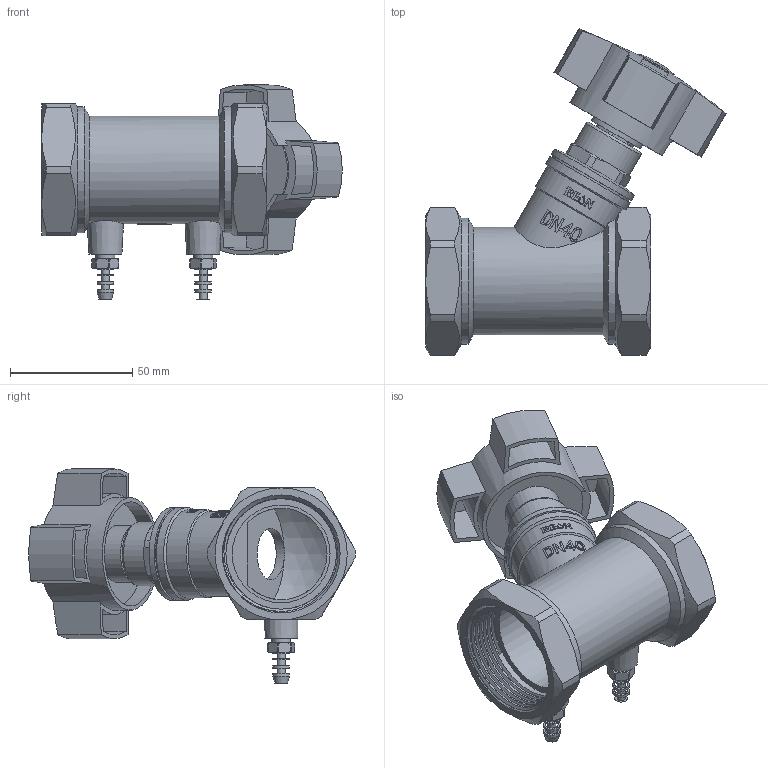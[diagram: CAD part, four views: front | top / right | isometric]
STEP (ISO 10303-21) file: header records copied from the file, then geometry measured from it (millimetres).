
FILE_DESCRIPTION(/* description */ ('STEP AP203'),/* implementation_level */ '2;1');
FILE_NAME(/* name */ 'RSV54-DN40.stp',/* time_stamp */ '2024-12-12T15:11:55+07:00',/* author */ ('Eva'),/* organization */ (''),/* preprocessor_version */ 'ST-DEVELOPER v20',/* originating_system */ 'Autodesk Inventor 2025',/* authorisation */ '');
FILE_SCHEMA (('AUTOMOTIVE_DESIGN { 1 0 10303 214 3 1 1 }'));
Length unit declared in the file: metre
Products named in the file (1): ZL-6602-11£¯2-00Æ½ºâ·§
Bounding box: 122.87 x 133.51 x 87.55 mm (x, y, z)
Volume: 133826.8 mm3; surface area: 83093.4 mm2
Topology: 16 solids, 16 shells, 856 faces, 2194 edges, 1435 vertices
Faces by surface type: cylinder 321, plane 309, cone 102, bspline 96, sphere 15, torus 13
Full cylindrical faces by diameter (mm): 0.3 x2, 1.4 x2, 2 x2, 3.3 x2, 4 x2, 4.1 x5, 4.2 x8, 5 x12, 6.2 x2, 6.5 x1, 6.7 x2, 6.75 x6, 6.8 x8, 7 x6, 7.8 x2, 8 x11, 8.1 x1, 8.9 x2, 9 x1, 9.8 x2, 10 x2, 10.6 x1, 11 x1, 11.2 x1, 12 x6, 12.5 x21, 14 x12, 14.5 x2, 15 x2, 16.5 x1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
Entity records: 51917 total; most frequent: CARTESIAN_POINT 32181, ORIENTED_EDGE 4378, DIRECTION 3741, EDGE_CURVE 2189, AXIS2_PLACEMENT_3D 1437, VERTEX_POINT 1435, EDGE_LOOP 954, LINE 867
